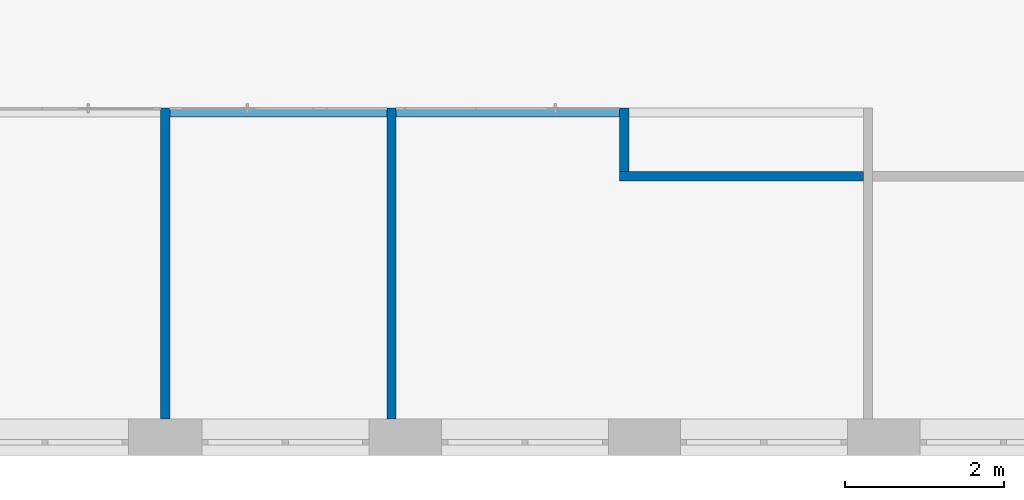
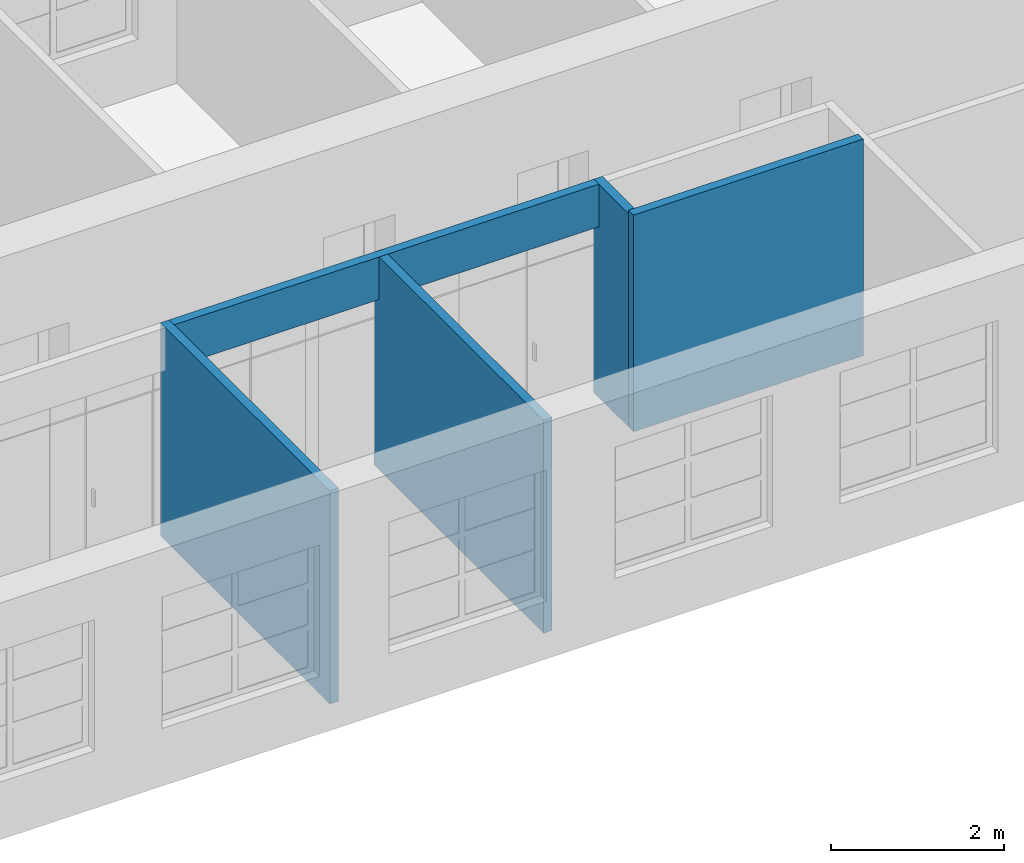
# One storey, part 55 of 73: 5 walls.
"""IFC2X3 building model written with IfcOpenShell, lengths in millimetres."""

from ifc_helpers import new_model, entity, si_unit, converted_unit, derived_unit, direction, frame, frame_2d, origin, place, context, subcontext, project, spatial, rectangle, extrude, material, layer, layer_set, layer_usage, type_object, element, save


model = new_model("IFC2X3")

# Units and contexts
model_context = context("Model", 3, precision=0.01, world=origin(), true_north=direction((6.12303176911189e-17, 1.0)))
body_context = subcontext(model_context, "Body", "Model", "MODEL_VIEW")
ifc_project = project(units=[si_unit("LENGTHUNIT", "METRE", prefix="MILLI"), si_unit("AREAUNIT", "SQUARE_METRE"), si_unit("VOLUMEUNIT", "CUBIC_METRE"), converted_unit("PLANEANGLEUNIT", "DEGREE", entity("IfcRatioMeasure", 0.0174532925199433), si_unit("PLANEANGLEUNIT", "RADIAN"), dimensions=[0, 0, 0, 0, 0, 0, 0]), si_unit("MASSUNIT", "GRAM", prefix="KILO"), derived_unit("MASSDENSITYUNIT", [(si_unit("MASSUNIT", "GRAM", prefix="KILO"), 1), (si_unit("LENGTHUNIT", "METRE"), -3)]), si_unit("TIMEUNIT", "SECOND"), si_unit("FREQUENCYUNIT", "HERTZ"), si_unit("THERMODYNAMICTEMPERATUREUNIT", "DEGREE_CELSIUS"), derived_unit("THERMALTRANSMITTANCEUNIT", [(si_unit("MASSUNIT", "GRAM", prefix="KILO"), 1), (si_unit("THERMODYNAMICTEMPERATUREUNIT", "KELVIN"), -1), (si_unit("TIMEUNIT", "SECOND"), -3)]), derived_unit("VOLUMETRICFLOWRATEUNIT", [(si_unit("LENGTHUNIT", "METRE"), 3), (si_unit("TIMEUNIT", "SECOND"), -1)]), si_unit("ELECTRICCURRENTUNIT", "AMPERE"), si_unit("ELECTRICVOLTAGEUNIT", "VOLT"), si_unit("POWERUNIT", "WATT"), si_unit("FORCEUNIT", "NEWTON", prefix="KILO"), si_unit("ILLUMINANCEUNIT", "LUX"), si_unit("LUMINOUSFLUXUNIT", "LUMEN"), si_unit("LUMINOUSINTENSITYUNIT", "CANDELA"), derived_unit("USERDEFINED", [(si_unit("MASSUNIT", "GRAM", prefix="KILO"), -1), (si_unit("LENGTHUNIT", "METRE"), -2), (si_unit("TIMEUNIT", "SECOND"), 3), (si_unit("LUMINOUSFLUXUNIT", "LUMEN"), 1)]), derived_unit("LINEARVELOCITYUNIT", [(si_unit("LENGTHUNIT", "METRE"), 1), (si_unit("TIMEUNIT", "SECOND"), -1)]), si_unit("PRESSUREUNIT", "PASCAL"), derived_unit("USERDEFINED", [(si_unit("LENGTHUNIT", "METRE"), -2), (si_unit("MASSUNIT", "GRAM", prefix="KILO"), 1), (si_unit("TIMEUNIT", "SECOND"), -2)])], contexts=[model_context])

# Site, building, storey
site_placement = place(None, frame((-151.875543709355, 2715.0, 0.0)))
site = spatial("IfcSite", under=ifc_project, at=site_placement, Name="Surface", CompositionType="ELEMENT")
building_placement = place(site_placement, origin())
building = spatial("IfcBuilding", under=site, at=building_placement, CompositionType="ELEMENT")
storey_placement = place(building_placement, frame((0.0, 0.0, 6730.43000000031)))
storey = spatial("IfcBuildingStorey", under=building, at=storey_placement, Name="3 korrus", CompositionType="ELEMENT", Elevation=6730.43000000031)

# Walls
ifc_material_1 = material(Name="__Kips GN13_tava")
ifc_layer_1 = layer(ifc_material_1, 12.5)
ifc_layer_2 = layer(ifc_material_1, 12.5)
ifc_material_2 = material(Name="__Soojustus EPS")
ifc_layer_3 = layer(ifc_material_2, 66.0)
ifc_layer_4 = layer(ifc_material_1, 12.5)
ifc_layer_5 = layer(ifc_material_1, 12.5)
ifc_layer_set = layer_set([ifc_layer_1, ifc_layer_2, ifc_layer_3, ifc_layer_4, ifc_layer_5], Name="Basic Wall:SS-3_Kipssein tava ruumide vahel")
ifc_layer_usage_1 = layer_usage(ifc_layer_set, "AXIS2", "NEGATIVE", 58.0)
wall_type = type_object("IfcWallType", Name="Basic Wall:SS-3_Kipssein tava ruumide vahel", PredefinedType="STANDARD", material=ifc_layer_set)
wall_1_placement = place(storey_placement, frame((18303.0647264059, 459.904632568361, 0.00203353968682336), z_axis=(0.0, 0.0, 1.0), x_axis=(0.0, 1.0, 0.0)))
element("IfcWallStandardCase", 1, at=wall_1_placement, inside=storey, type_object=wall_type, material=ifc_layer_usage_1, Name="SEIN - 009", ObjectType="Basic Wall:SS-3_Kipssein tava ruumide vahel", context=body_context, shape_type="SweptSolid", body=[
    extrude(rectangle(XDim=3907.140301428, YDim=116.0, at=frame_2d((1953.570150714, 0.0), x_axis=(-1.0, 0.0))), origin(), (0.0, 0.0, 1.0), 2999.56796646),
])
ifc_layer_usage_2 = layer_usage(ifc_layer_set, "AXIS2", "NEGATIVE", 58.0)
wall_2_placement = place(storey_placement, frame((24229.564726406, 3507.04493399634, 0.0), z_axis=(0.0, 0.0, 1.0), x_axis=(-1.0, 0.0, 0.0)))
element("IfcWallStandardCase", 2, at=wall_2_placement, inside=storey, type_object=wall_type, material=ifc_layer_usage_2, Name="Basic Wall:SS-3_Kipssein tava ruumide vahel", ObjectType="Basic Wall:SS-3_Kipssein tava ruumide vahel", context=body_context, shape_type="SweptSolid", body=[
    extrude(rectangle(XDim=3061.30857960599, YDim=116.0, at=frame_2d((1530.65428980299, 3.5527136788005e-15), x_axis=(-1.0, 0.0))), origin(), (0.0, 0.0, 1.0), 3050.0),
])
ifc_layer_usage_3 = layer_usage(ifc_layer_set, "AXIS2", "NEGATIVE", 58.0)
wall_3_placement = place(storey_placement, frame((21226.2561468, 3565.04493399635, 0.0), z_axis=(0.0, 0.0, 1.0), x_axis=(0.0, 1.0, 0.0)))
element("IfcWallStandardCase", 3, at=wall_3_placement, inside=storey, type_object=wall_type, material=ifc_layer_usage_3, Name="Basic Wall:SS-3_Kipssein tava ruumide vahel", ObjectType="Basic Wall:SS-3_Kipssein tava ruumide vahel", context=body_context, shape_type="SweptSolid", body=[
    extrude(rectangle(XDim=802.0, YDim=116.0, at=frame_2d((401.0, 0.0), x_axis=(-1.0, 0.0))), origin(), (0.0, 0.0, 1.0), 2999.57),
])
ifc_layer_usage_4 = layer_usage(ifc_layer_set, "AXIS2", "NEGATIVE", 58.0)
wall_4_placement = place(storey_placement, frame((15517.5647264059, 4307.04493399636, 2400.0)))
element("IfcWallStandardCase", 4, at=wall_4_placement, inside=storey, type_object=wall_type, material=ifc_layer_usage_4, Name="Basic Wall:SS-3_Kipssein tava ruumide vahel", ObjectType="Basic Wall:SS-3_Kipssein tava ruumide vahel", context=body_context, shape_type="SweptSolid", body=[
    extrude(rectangle(XDim=5650.69142039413, YDim=116.0, at=frame_2d((2825.34571019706, -9.2370555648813e-14), x_axis=(-1.0, 0.0))), origin(), (0.0, 0.0, 1.0), 600.002033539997),
])
ifc_layer_usage_5 = layer_usage(ifc_layer_set, "AXIS2", "NEGATIVE", 58.0)
wall_5_placement = place(storey_placement, frame((15459.5647264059, 459.904632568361, 0.0), z_axis=(0.0, 0.0, 1.0), x_axis=(0.0, 1.0, 0.0)))
element("IfcWallStandardCase", 5, at=wall_5_placement, inside=storey, type_object=wall_type, material=ifc_layer_usage_5, Name="Basic Wall:SS-3_Kipssein tava ruumide vahel", ObjectType="Basic Wall:SS-3_Kipssein tava ruumide vahel", context=body_context, shape_type="SweptSolid", body=[
    extrude(rectangle(XDim=3905.140301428, YDim=116.0, at=frame_2d((1952.570150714, 0.0), x_axis=(-1.0, 0.0))), origin(), (0.0, 0.0, 1.0), 3000.0),
])

save(model, "model.ifc")
